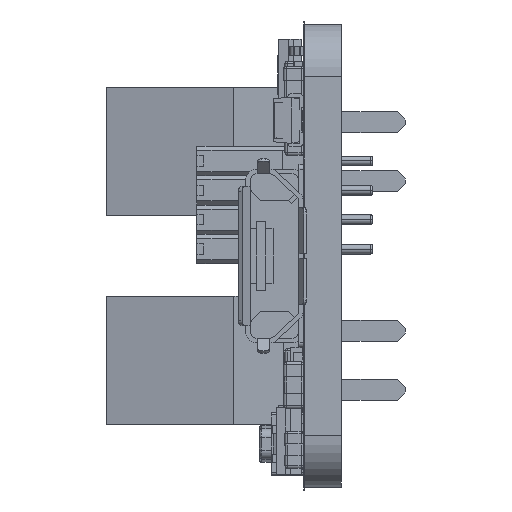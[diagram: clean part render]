
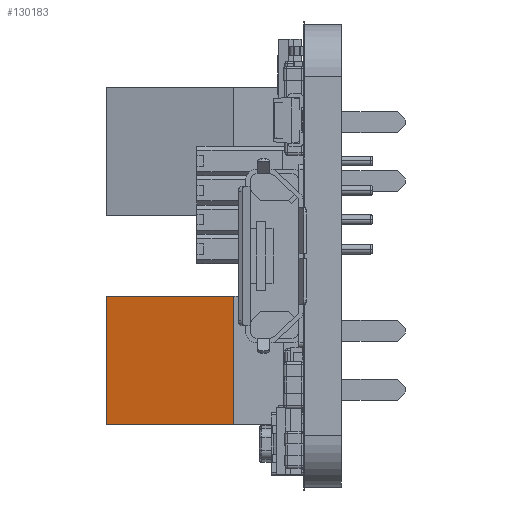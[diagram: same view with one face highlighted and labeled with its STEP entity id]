
A CAD part, left-side view. The second image highlights one B-rep face of the part: STEP entity #130183.
In plain terms, the highlighted planar face has unit normal (-0.977, 0.213, 0) as drawn and (0.977, 0.213, 0) by its records, which use the part's own axes.
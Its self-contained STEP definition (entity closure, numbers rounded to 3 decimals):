
#15381 = EDGE_LOOP ( 'NONE', ( #77534, #77538, #77542, #77546 ) ) ;
#39710 = LINE ( 'NONE', #48166, #39712 ) ;
#39712 = VECTOR ( 'NONE', #48169, 1000. ) ;
#39745 = LINE ( 'NONE', #48260, #39746 ) ;
#39746 = VECTOR ( 'NONE', #48263, 1000. ) ;
#39749 = LINE ( 'NONE', #48276, #39750 ) ;
#39750 = VECTOR ( 'NONE', #48278, 1000. ) ;
#39751 = LINE ( 'NONE', #48282, #39752 ) ;
#39752 = VECTOR ( 'NONE', #48285, 1000. ) ;
#48166 = CARTESIAN_POINT ( 'NONE',  ( 3.1, 3., 0. ) ) ;
#48169 = DIRECTION ( 'NONE',  ( 0., 0., 1. ) ) ;
#48260 = CARTESIAN_POINT ( 'NONE',  ( 1.9, 8.5, 0. ) ) ;
#48263 = DIRECTION ( 'NONE',  ( 0., 0., 1. ) ) ;
#48276 = CARTESIAN_POINT ( 'NONE',  ( 3.1, 3., 2.77 ) ) ;
#48278 = DIRECTION ( 'NONE',  ( -0.213, 0.977, 0. ) ) ;
#48282 = CARTESIAN_POINT ( 'NONE',  ( 1.9, 8.5, -2.77 ) ) ;
#48285 = DIRECTION ( 'NONE',  ( 0.213, -0.977, 0. ) ) ;
#77534 = ORIENTED_EDGE ( 'NONE', *, *, #124314, .T. ) ;
#77538 = ORIENTED_EDGE ( 'NONE', *, *, #124327, .F. ) ;
#77542 = ORIENTED_EDGE ( 'NONE', *, *, #124258, .F. ) ;
#77546 = ORIENTED_EDGE ( 'NONE', *, *, #124332, .F. ) ;
#107288 = PLANE ( 'NONE',  #114301 ) ;
#107290 = CARTESIAN_POINT ( 'NONE',  ( 3.1, 3., 0. ) ) ;
#107292 = DIRECTION ( 'NONE',  ( 0.977, 0.213, 0. ) ) ;
#107294 = DIRECTION ( 'NONE',  ( -0.213, 0.977, 0. ) ) ;
#110532 = FACE_OUTER_BOUND ( 'NONE', #15381, .T. ) ;
#114301 = AXIS2_PLACEMENT_3D ( 'NONE', #107290, #107292, #107294 ) ;
#124258 = EDGE_CURVE ( 'NONE', #276044, #276045, #39710, .T. ) ;
#124314 = EDGE_CURVE ( 'NONE', #276057, #276055, #39745, .T. ) ;
#124327 = EDGE_CURVE ( 'NONE', #276045, #276055, #39749, .T. ) ;
#124332 = EDGE_CURVE ( 'NONE', #276057, #276044, #39751, .T. ) ;
#130183 = ADVANCED_FACE ( 'NONE', ( #110532 ), #107288, .T. ) ;
#178876 = CARTESIAN_POINT ( 'NONE',  ( 3.1, 3., -2.77 ) ) ;
#178877 = CARTESIAN_POINT ( 'NONE',  ( 3.1, 3., 2.77 ) ) ;
#178882 = CARTESIAN_POINT ( 'NONE',  ( 1.9, 8.5, 2.77 ) ) ;
#178883 = CARTESIAN_POINT ( 'NONE',  ( 1.9, 8.5, -2.77 ) ) ;
#276044 = VERTEX_POINT ( 'NONE', #178876 ) ;
#276045 = VERTEX_POINT ( 'NONE', #178877 ) ;
#276055 = VERTEX_POINT ( 'NONE', #178882 ) ;
#276057 = VERTEX_POINT ( 'NONE', #178883 ) ;
